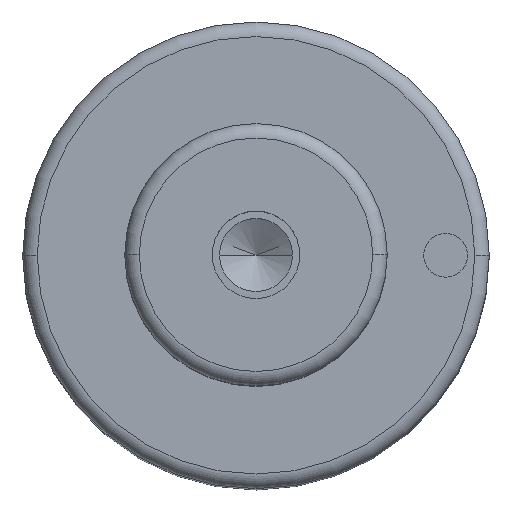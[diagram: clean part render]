
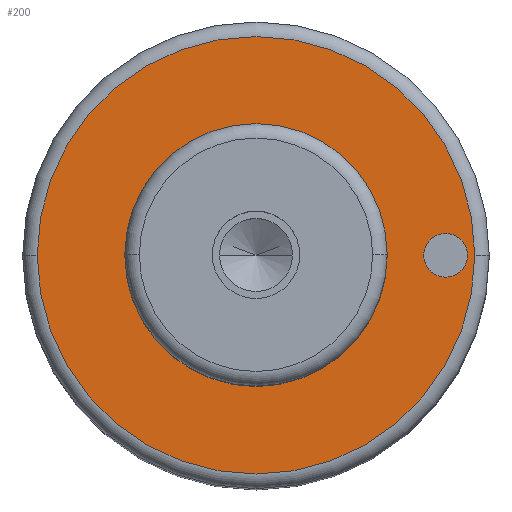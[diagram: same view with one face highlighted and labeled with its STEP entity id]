
A CAD part, top view. The second image highlights one B-rep face of the part: STEP entity #200.
In plain terms, the highlighted planar face has unit normal (0, 0, 1).
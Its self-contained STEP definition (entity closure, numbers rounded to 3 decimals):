
#99=PLANE('',#596);
#107=FACE_BOUND('',#265,.T.);
#108=FACE_BOUND('',#266,.T.);
#109=FACE_BOUND('',#267,.T.);
#200=ADVANCED_FACE('',(#107,#108,#109),#99,.T.);
#265=EDGE_LOOP('',(#359,#360));
#266=EDGE_LOOP('',(#361,#362));
#267=EDGE_LOOP('',(#363,#364));
#359=ORIENTED_EDGE('',*,*,#460,.F.);
#360=ORIENTED_EDGE('',*,*,#461,.F.);
#361=ORIENTED_EDGE('',*,*,#485,.F.);
#362=ORIENTED_EDGE('',*,*,#486,.F.);
#363=ORIENTED_EDGE('',*,*,#456,.T.);
#364=ORIENTED_EDGE('',*,*,#454,.T.);
#411=VERTEX_POINT('',#808);
#412=VERTEX_POINT('',#810);
#413=VERTEX_POINT('',#816);
#416=VERTEX_POINT('',#821);
#430=VERTEX_POINT('',#875);
#431=VERTEX_POINT('',#876);
#454=EDGE_CURVE('',#412,#411,#513,.T.);
#456=EDGE_CURVE('',#411,#412,#514,.T.);
#460=EDGE_CURVE('',#416,#413,#518,.T.);
#461=EDGE_CURVE('',#413,#416,#519,.T.);
#485=EDGE_CURVE('',#430,#431,#533,.T.);
#486=EDGE_CURVE('',#431,#430,#534,.T.);
#513=CIRCLE('',#558,9.);
#514=CIRCLE('',#560,9.);
#518=CIRCLE('',#565,15.);
#519=CIRCLE('',#567,15.);
#533=CIRCLE('',#594,1.5);
#534=CIRCLE('',#595,1.5);
#558=AXIS2_PLACEMENT_3D('',#809,#647,#648);
#560=AXIS2_PLACEMENT_3D('',#813,#652,#653);
#565=AXIS2_PLACEMENT_3D('',#822,#662,#663);
#567=AXIS2_PLACEMENT_3D('',#824,#666,#667);
#594=AXIS2_PLACEMENT_3D('',#874,#730,#731);
#595=AXIS2_PLACEMENT_3D('',#877,#732,#733);
#596=AXIS2_PLACEMENT_3D('',#878,#734,#735);
#647=DIRECTION('',(0.,0.,-1.));
#648=DIRECTION('',(0.,1.,0.));
#652=DIRECTION('',(0.,0.,-1.));
#653=DIRECTION('',(0.,-1.,0.));
#662=DIRECTION('',(0.,0.,-1.));
#663=DIRECTION('',(0.,1.,0.));
#666=DIRECTION('',(0.,0.,-1.));
#667=DIRECTION('',(0.,-1.,0.));
#730=DIRECTION('',(0.,0.,1.));
#731=DIRECTION('',(0.,1.,0.));
#732=DIRECTION('',(0.,0.,1.));
#733=DIRECTION('',(0.,-1.,0.));
#734=DIRECTION('',(0.,0.,1.));
#735=DIRECTION('',(0.,-1.,0.));
#808=CARTESIAN_POINT('',(-9.,0.,54.));
#809=CARTESIAN_POINT('',(0.,0.,54.));
#810=CARTESIAN_POINT('',(9.,0.,54.));
#813=CARTESIAN_POINT('',(0.,0.,54.));
#816=CARTESIAN_POINT('',(-15.,0.,54.));
#821=CARTESIAN_POINT('',(15.,0.,54.));
#822=CARTESIAN_POINT('',(0.,0.,54.));
#824=CARTESIAN_POINT('',(0.,0.,54.));
#874=CARTESIAN_POINT('',(13.,0.,54.));
#875=CARTESIAN_POINT('',(11.5,0.,54.));
#876=CARTESIAN_POINT('',(14.5,0.,54.));
#877=CARTESIAN_POINT('',(13.,0.,54.));
#878=CARTESIAN_POINT('',(0.,0.,54.));
